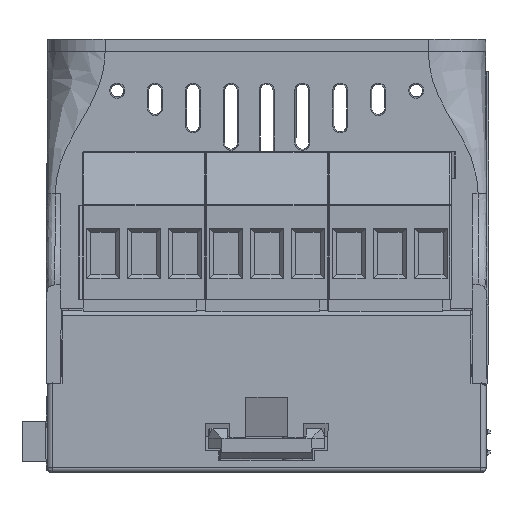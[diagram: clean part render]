
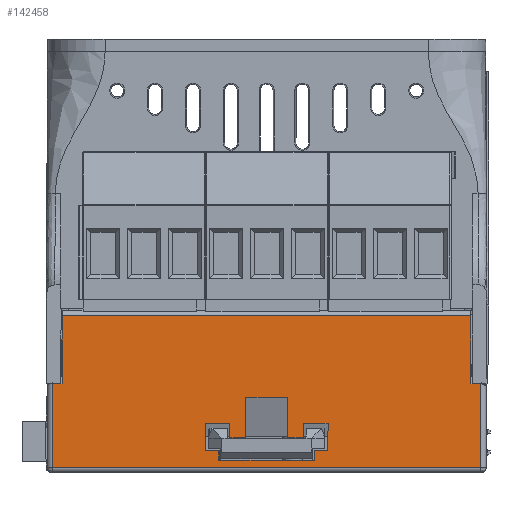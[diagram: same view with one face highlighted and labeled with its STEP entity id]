
A CAD part, front view. The second image highlights one B-rep face of the part: STEP entity #142458.
In plain terms, the highlighted planar face has unit normal (0, -1, 0).
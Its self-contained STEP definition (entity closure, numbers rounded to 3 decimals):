
#967=FACE_BOUND('',#20687,.T.);
#6418=PLANE('',#150539);
#13088=FACE_OUTER_BOUND('',#20686,.T.);
#20686=EDGE_LOOP('',(#108187,#108188,#108189,#108190,#108191,#108192,#108193,
#108194,#108195,#108196));
#20687=EDGE_LOOP('',(#108197,#108198,#108199,#108200,#108201,#108202,#108203,
#108204,#108205,#108206,#108207,#108208,#108209,#108210,#108211,#108212));
#31402=LINE('',#214070,#48265);
#31568=LINE('',#215965,#48431);
#31617=LINE('',#216402,#48480);
#31620=LINE('',#216413,#48483);
#31641=LINE('',#216465,#48504);
#32245=LINE('',#217881,#49108);
#32248=LINE('',#217886,#49111);
#32250=LINE('',#217890,#49113);
#32252=LINE('',#217894,#49115);
#32256=LINE('',#217900,#49119);
#32258=LINE('',#217904,#49121);
#32259=LINE('',#217907,#49122);
#32262=LINE('',#217912,#49125);
#32264=LINE('',#217916,#49127);
#32266=LINE('',#217920,#49129);
#32269=LINE('',#217925,#49132);
#32271=LINE('',#217929,#49134);
#32274=LINE('',#217934,#49137);
#32275=LINE('',#217937,#49138);
#32277=LINE('',#217941,#49140);
#32279=LINE('',#217944,#49142);
#32280=LINE('',#217947,#49143);
#32474=LINE('',#218453,#49337);
#32476=LINE('',#218456,#49339);
#32495=LINE('',#218500,#49358);
#32496=LINE('',#218502,#49359);
#48265=VECTOR('',#167416,1.);
#48431=VECTOR('',#167884,1.);
#48480=VECTOR('',#168179,1.);
#48483=VECTOR('',#168192,1.);
#48504=VECTOR('',#168229,1.);
#49108=VECTOR('',#169485,1.);
#49111=VECTOR('',#169490,1.);
#49113=VECTOR('',#169494,1.);
#49115=VECTOR('',#169498,1.);
#49119=VECTOR('',#169504,1.);
#49121=VECTOR('',#169508,1.);
#49122=VECTOR('',#169511,1.);
#49125=VECTOR('',#169516,1.);
#49127=VECTOR('',#169520,1.);
#49129=VECTOR('',#169524,1.);
#49132=VECTOR('',#169529,1.);
#49134=VECTOR('',#169533,1.);
#49137=VECTOR('',#169538,1.);
#49138=VECTOR('',#169541,1.);
#49140=VECTOR('',#169545,1.);
#49142=VECTOR('',#169549,1.);
#49143=VECTOR('',#169552,1.);
#49337=VECTOR('',#170034,1.);
#49339=VECTOR('',#170038,1.);
#49358=VECTOR('',#170085,1.);
#49359=VECTOR('',#170088,1.);
#63817=VERTEX_POINT('',#213287);
#63903=VERTEX_POINT('',#214068);
#64040=VERTEX_POINT('',#215962);
#64041=VERTEX_POINT('',#215964);
#64126=VERTEX_POINT('',#216400);
#64129=VERTEX_POINT('',#216412);
#64151=VERTEX_POINT('',#216462);
#64152=VERTEX_POINT('',#216464);
#64610=VERTEX_POINT('',#217788);
#64628=VERTEX_POINT('',#217878);
#64629=VERTEX_POINT('',#217880);
#64630=VERTEX_POINT('',#217884);
#64631=VERTEX_POINT('',#217888);
#64632=VERTEX_POINT('',#217893);
#64633=VERTEX_POINT('',#217898);
#64634=VERTEX_POINT('',#217902);
#64635=VERTEX_POINT('',#217906);
#64636=VERTEX_POINT('',#217911);
#64637=VERTEX_POINT('',#217915);
#64638=VERTEX_POINT('',#217919);
#64639=VERTEX_POINT('',#217924);
#64640=VERTEX_POINT('',#217928);
#64641=VERTEX_POINT('',#217932);
#64642=VERTEX_POINT('',#217936);
#64643=VERTEX_POINT('',#217940);
#64644=VERTEX_POINT('',#217946);
#79182=EDGE_CURVE('',#63817,#63903,#31402,.T.);
#79434=EDGE_CURVE('',#64041,#64040,#31568,.T.);
#79553=EDGE_CURVE('',#63903,#64126,#31617,.T.);
#79558=EDGE_CURVE('',#64129,#64041,#31620,.T.);
#79583=EDGE_CURVE('',#64152,#64151,#31641,.T.);
#80297=EDGE_CURVE('',#64629,#64628,#32245,.T.);
#80300=EDGE_CURVE('',#64630,#64629,#32248,.T.);
#80302=EDGE_CURVE('',#64630,#64631,#32250,.T.);
#80304=EDGE_CURVE('',#64631,#64632,#32252,.T.);
#80308=EDGE_CURVE('',#64633,#64632,#32256,.T.);
#80310=EDGE_CURVE('',#64633,#64634,#32258,.T.);
#80311=EDGE_CURVE('',#64635,#64634,#32259,.T.);
#80314=EDGE_CURVE('',#64635,#64636,#32262,.T.);
#80316=EDGE_CURVE('',#64637,#64636,#32264,.T.);
#80318=EDGE_CURVE('',#64637,#64638,#32266,.T.);
#80321=EDGE_CURVE('',#64638,#64639,#32269,.T.);
#80323=EDGE_CURVE('',#64640,#64639,#32271,.T.);
#80326=EDGE_CURVE('',#64641,#64640,#32274,.T.);
#80327=EDGE_CURVE('',#64642,#64641,#32275,.T.);
#80329=EDGE_CURVE('',#64643,#64642,#32277,.T.);
#80331=EDGE_CURVE('',#64628,#64643,#32279,.T.);
#80332=EDGE_CURVE('',#64644,#64610,#32280,.T.);
#80560=EDGE_CURVE('',#64610,#63817,#32474,.T.);
#80562=EDGE_CURVE('',#64126,#64152,#32476,.T.);
#80584=EDGE_CURVE('',#64129,#64151,#32495,.T.);
#80585=EDGE_CURVE('',#64040,#64644,#32496,.T.);
#108187=ORIENTED_EDGE('',*,*,#80585,.T.);
#108188=ORIENTED_EDGE('',*,*,#80332,.T.);
#108189=ORIENTED_EDGE('',*,*,#80560,.T.);
#108190=ORIENTED_EDGE('',*,*,#79182,.T.);
#108191=ORIENTED_EDGE('',*,*,#79553,.T.);
#108192=ORIENTED_EDGE('',*,*,#80562,.T.);
#108193=ORIENTED_EDGE('',*,*,#79583,.T.);
#108194=ORIENTED_EDGE('',*,*,#80584,.F.);
#108195=ORIENTED_EDGE('',*,*,#79558,.T.);
#108196=ORIENTED_EDGE('',*,*,#79434,.T.);
#108197=ORIENTED_EDGE('',*,*,#80331,.T.);
#108198=ORIENTED_EDGE('',*,*,#80329,.T.);
#108199=ORIENTED_EDGE('',*,*,#80327,.T.);
#108200=ORIENTED_EDGE('',*,*,#80326,.T.);
#108201=ORIENTED_EDGE('',*,*,#80323,.T.);
#108202=ORIENTED_EDGE('',*,*,#80321,.F.);
#108203=ORIENTED_EDGE('',*,*,#80318,.F.);
#108204=ORIENTED_EDGE('',*,*,#80316,.T.);
#108205=ORIENTED_EDGE('',*,*,#80314,.F.);
#108206=ORIENTED_EDGE('',*,*,#80311,.T.);
#108207=ORIENTED_EDGE('',*,*,#80310,.F.);
#108208=ORIENTED_EDGE('',*,*,#80308,.T.);
#108209=ORIENTED_EDGE('',*,*,#80304,.F.);
#108210=ORIENTED_EDGE('',*,*,#80302,.F.);
#108211=ORIENTED_EDGE('',*,*,#80300,.T.);
#108212=ORIENTED_EDGE('',*,*,#80297,.T.);
#142458=ADVANCED_FACE('',(#13088,#967),#6418,.F.);
#150539=AXIS2_PLACEMENT_3D('',#218501,#170086,#170087);
#167416=DIRECTION('',(-1.,0.,0.));
#167884=DIRECTION('',(-1.,0.,0.));
#168179=DIRECTION('',(-1.,0.,0.));
#168192=DIRECTION('',(-1.,0.,0.));
#168229=DIRECTION('',(-1.,0.,0.));
#169485=DIRECTION('',(1.,0.,0.));
#169490=DIRECTION('',(-0.009,0.,-1.));
#169494=DIRECTION('',(-1.,0.,0.009));
#169498=DIRECTION('',(0.009,0.,-1.));
#169504=DIRECTION('',(-1.,0.,0.));
#169508=DIRECTION('',(0.009,0.,-1.));
#169511=DIRECTION('',(-1.,0.,0.));
#169516=DIRECTION('',(0.009,0.,1.));
#169520=DIRECTION('',(-1.,0.,0.));
#169524=DIRECTION('',(0.009,0.,1.));
#169529=DIRECTION('',(-1.,0.,-0.009));
#169533=DIRECTION('',(-0.009,0.,1.));
#169538=DIRECTION('',(1.,0.,0.));
#169541=DIRECTION('',(0.,0.,-1.));
#169545=DIRECTION('',(1.,0.,0.));
#169549=DIRECTION('',(0.,0.,1.));
#169552=DIRECTION('',(1.,0.,0.));
#170034=DIRECTION('',(0.,0.,1.));
#170038=DIRECTION('',(0.,0.,1.));
#170085=DIRECTION('',(0.,0.,1.));
#170086=DIRECTION('center_axis',(0.,1.,0.));
#170087=DIRECTION('ref_axis',(0.,0.,
1.));
#170088=DIRECTION('',(0.,0.,-1.));
#213287=CARTESIAN_POINT('',(26.15,-44.644,4.871));
#214068=CARTESIAN_POINT('',(25.14,-44.644,4.871));
#214070=CARTESIAN_POINT('',(25.908,-44.644,4.871));
#215962=CARTESIAN_POINT('',(-26.15,-44.644,4.871));
#215964=CARTESIAN_POINT('',(-25.14,-44.644,4.871));
#215965=CARTESIAN_POINT('',(-25.908,-44.644,4.871));
#216400=CARTESIAN_POINT('',(24.941,-44.644,4.871));
#216402=CARTESIAN_POINT('',(25.908,-44.644,4.871));
#216412=CARTESIAN_POINT('',(-24.941,-44.644,4.871));
#216413=CARTESIAN_POINT('',(-25.908,-44.644,4.871));
#216462=CARTESIAN_POINT('',(-24.941,-44.644,13.156));
#216464=CARTESIAN_POINT('',(24.941,-44.644,13.156));
#216465=CARTESIAN_POINT('',(-38.979,-44.644,13.156));
#217788=CARTESIAN_POINT('',(26.15,-44.644,-5.4));
#217878=CARTESIAN_POINT('',(-2.55,-44.644,-1.725));
#217880=CARTESIAN_POINT('',(-4.498,-44.644,-1.725));
#217881=CARTESIAN_POINT('',(38.979,-44.644,-1.725));
#217884=CARTESIAN_POINT('',(-4.483,-44.644,-0.015));
#217886=CARTESIAN_POINT('',(-4.443,-44.644,4.558));
#217888=CARTESIAN_POINT('',(-7.496,-44.644,0.011));
#217890=CARTESIAN_POINT('',(-3.784,-44.644,-0.021));
#217893=CARTESIAN_POINT('',(-7.467,-44.644,-3.32));
#217894=CARTESIAN_POINT('',(-7.645,-44.644,17.1));
#217898=CARTESIAN_POINT('',(-5.867,-44.644,-3.32));
#217900=CARTESIAN_POINT('',(-3.728,-44.644,-3.32));
#217902=CARTESIAN_POINT('',(-5.857,-44.644,-4.5));
#217904=CARTESIAN_POINT('',(-5.855,-44.644,-4.646));
#217906=CARTESIAN_POINT('',(5.857,-44.644,-4.5));
#217907=CARTESIAN_POINT('',(-38.979,-44.644,-4.5));
#217911=CARTESIAN_POINT('',(5.867,-44.644,-3.32));
#217912=CARTESIAN_POINT('',(5.855,-44.644,-4.646));
#217915=CARTESIAN_POINT('',(7.467,-44.644,-3.32));
#217916=CARTESIAN_POINT('',(3.728,-44.644,-3.32));
#217919=CARTESIAN_POINT('',(7.496,-44.644,0.011));
#217920=CARTESIAN_POINT('',(7.645,-44.644,17.1));
#217924=CARTESIAN_POINT('',(4.483,-44.644,-0.015));
#217925=CARTESIAN_POINT('',(3.784,-44.644,-0.021));
#217928=CARTESIAN_POINT('',(4.498,-44.644,-1.725));
#217929=CARTESIAN_POINT('',(4.443,-44.644,4.558));
#217932=CARTESIAN_POINT('',(2.55,-44.644,-1.725));
#217934=CARTESIAN_POINT('',(-38.979,-44.644,-1.725));
#217936=CARTESIAN_POINT('',(2.55,-44.644,3.175));
#217937=CARTESIAN_POINT('',(2.55,-44.644,6.016));
#217940=CARTESIAN_POINT('',(-2.55,-44.644,3.175));
#217941=CARTESIAN_POINT('',(-38.979,-44.644,3.175));
#217944=CARTESIAN_POINT('',(-2.55,-44.644,6.016));
#217946=CARTESIAN_POINT('',(-26.15,-44.644,-5.4));
#217947=CARTESIAN_POINT('',(26.15,-44.644,-5.4));
#218453=CARTESIAN_POINT('',(26.15,-44.644,17.506));
#218456=CARTESIAN_POINT('',(24.941,-44.644,17.506));
#218500=CARTESIAN_POINT('',(-24.941,-44.644,17.506));
#218501=CARTESIAN_POINT('Origin',(-38.979,-44.644,17.506));
#218502=CARTESIAN_POINT('',(-26.15,-44.644,17.506));
